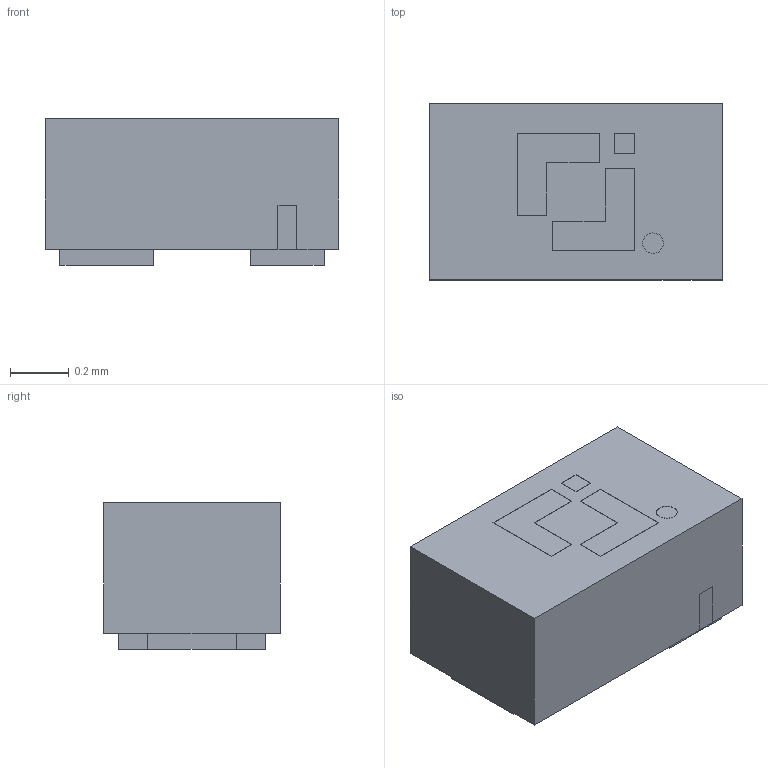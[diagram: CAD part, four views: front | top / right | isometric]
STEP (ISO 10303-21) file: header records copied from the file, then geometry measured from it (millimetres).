
FILE_DESCRIPTION(('HOOPS Exchange Step'),'2;1');
FILE_NAME('C:\Users\JSCJ\AppData\Local\Packages\Shapr3D.Shapr3D_dvv5p1vgwv6mp\TempState\export\temp_export','2025-12-04T10:29:25+08:00',('JSCJ'),('Shapr3D Limited'),'HOOPS Exchange 2025.7','Shapr3D','Authorized');
FILE_SCHEMA( ('AP242_MANAGED_MODEL_BASED_3D_ENGINEERING_MIM_LF {1 0 10303 442 1 1 4}') );
Length unit declared in the file: millimetre
Products named in the file (1): root
Bounding box: 1 x 0.6 x 0.5 mm (x, y, z)
Volume: 0.3 mm3; surface area: 4.2 mm2
Topology: 4 solids, 4 shells, 77 faces, 197 edges, 132 vertices
Faces by surface type: plane 76, cylinder 1
Full cylindrical faces by diameter (mm): 0.07 x1
Entity records: 2348 total; most frequent: CARTESIAN_POINT 408, ORIENTED_EDGE 394, DIRECTION 359, EDGE_CURVE 197, VECTOR 193, LINE 193, VERTEX_POINT 132, AXIS2_PLACEMENT_3D 83
